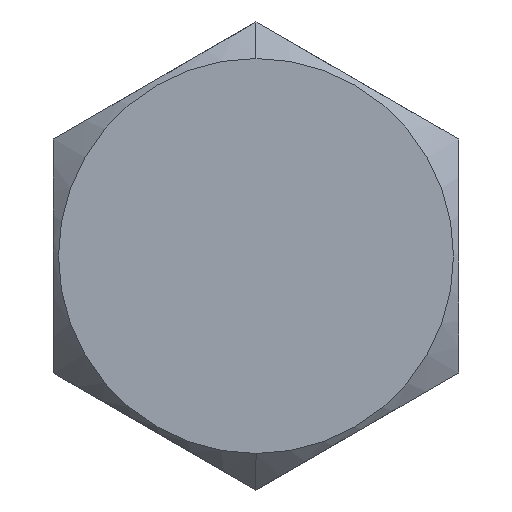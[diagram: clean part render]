
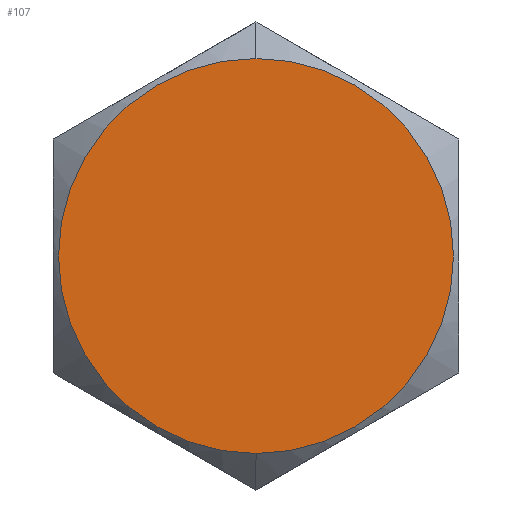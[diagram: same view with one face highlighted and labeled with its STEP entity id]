
A CAD part, left-side view. The second image highlights one B-rep face of the part: STEP entity #107.
In plain terms, the highlighted planar face has unit normal (-1, 0, 0).
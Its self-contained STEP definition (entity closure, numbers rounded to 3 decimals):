
#9 = EDGE_LOOP ( 'NONE', ( #73, #776 ) ) ;
#73 = ORIENTED_EDGE ( 'NONE', *, *, #139, .F. ) ;
#77 = VERTEX_POINT ( 'NONE', #676 ) ;
#87 = DIRECTION ( 'NONE',  ( 0., 0., -1. ) ) ;
#107 = ADVANCED_FACE ( 'NONE', ( #335 ), #434, .F. ) ;
#109 = AXIS2_PLACEMENT_3D ( 'NONE', #462, #396, #145 ) ;
#115 = CARTESIAN_POINT ( 'NONE',  ( 0., 0., -4.874 ) ) ;
#121 = CIRCLE ( 'NONE', #426, 4.874 ) ;
#139 = EDGE_CURVE ( 'NONE', #511, #77, #121, .T. ) ;
#145 = DIRECTION ( 'NONE',  ( 0., 0., -1. ) ) ;
#153 = DIRECTION ( 'NONE',  ( 0., 0., -1. ) ) ;
#226 = AXIS2_PLACEMENT_3D ( 'NONE', #358, #608, #153 ) ;
#335 = FACE_OUTER_BOUND ( 'NONE', #9, .T. ) ;
#340 = EDGE_CURVE ( 'NONE', #77, #511, #620, .T. ) ;
#358 = CARTESIAN_POINT ( 'NONE',  ( 0., 0., 0. ) ) ;
#396 = DIRECTION ( 'NONE',  ( 1., 0., 0. ) ) ;
#426 = AXIS2_PLACEMENT_3D ( 'NONE', #651, #583, #87 ) ;
#434 = PLANE ( 'NONE',  #109 ) ;
#462 = CARTESIAN_POINT ( 'NONE',  ( 0., 0., 0. ) ) ;
#511 = VERTEX_POINT ( 'NONE', #115 ) ;
#583 = DIRECTION ( 'NONE',  ( 1., 0., 0. ) ) ;
#608 = DIRECTION ( 'NONE',  ( 1., 0., 0. ) ) ;
#620 = CIRCLE ( 'NONE', #226, 4.874 ) ;
#651 = CARTESIAN_POINT ( 'NONE',  ( 0., 0., 0. ) ) ;
#676 = CARTESIAN_POINT ( 'NONE',  ( 0., 0., 4.874 ) ) ;
#776 = ORIENTED_EDGE ( 'NONE', *, *, #340, .F. ) ;
